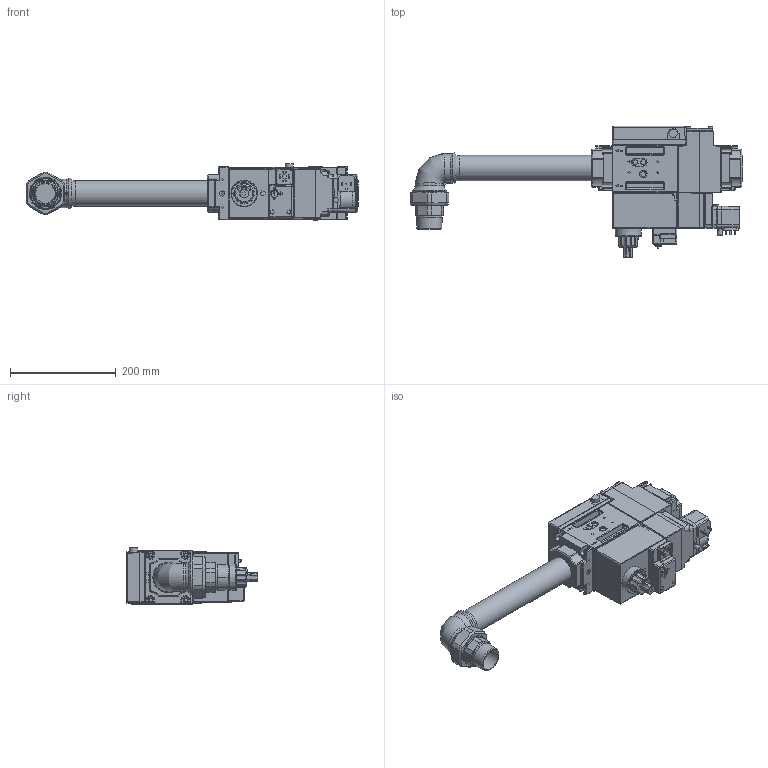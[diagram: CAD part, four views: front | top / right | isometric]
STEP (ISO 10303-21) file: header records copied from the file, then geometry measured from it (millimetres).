
FILE_DESCRIPTION (( 'STEP AP203' ), '1' );
FILE_NAME ('19990548-102937.step', '2016-12-15T10:48:36', ( '' ), ( '' ), 'SwSTEP 2.0', 'SolidWorks 2016', '' );
FILE_SCHEMA (( 'CONFIG_CONTROL_DESIGN' ));
Length unit declared in the file: millimetre
Products named in the file (7): 0005090008-102932; 0005090299-112889-AUTO; 0005040038-03745; 0005090299-112888; 19990548-102937; 30386-102930; 33720-102931
Assembly tree (7 placements, depth 3):
  19990548-102937
    30386-102930
    33720-102931
    0005090008-102932  x2
    0005090299-112888
      0005090299-112889-AUTO
      0005040038-03745
Bounding box: 627.35 x 248 x 106.08 mm (x, y, z)
Volume: 4437143.8 mm3; surface area: 479090.9 mm2
Topology: 9 solids, 9 shells, 2130 faces, 5238 edges, 3224 vertices
Faces by surface type: plane 829, cylinder 581, bspline 492, cone 130, torus 79, sphere 19
Full cylindrical faces by diameter (mm): 0.7 x2, 1.2 x4, 1.5 x2, 1.95 x1, 2 x4, 2.45 x1, 2.5 x7, 3.7 x3, 4 x4, 4.5 x1, 6.647 x4, 6.75 x2, 6.917 x8, 8 x5, 8.5 x6, 8.57 x1, 9 x2, 10 x10, 10.6 x1, 10.96 x2, 11 x7, 15 x3, 15.2 x1, 15.3 x1, 26 x1, 36.15 x1, 41.8 x1, 44.845 x1, 45 x2, 47.803 x2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
Entity records: 113431 total; most frequent: CARTESIAN_POINT 73263, ORIENTED_EDGE 8962, DIRECTION 6145, EDGE_CURVE 4481, VERTEX_POINT 2875, EDGE_LOOP 2364, AXIS2_PLACEMENT_3D 2111, FACE_OUTER_BOUND 2087
